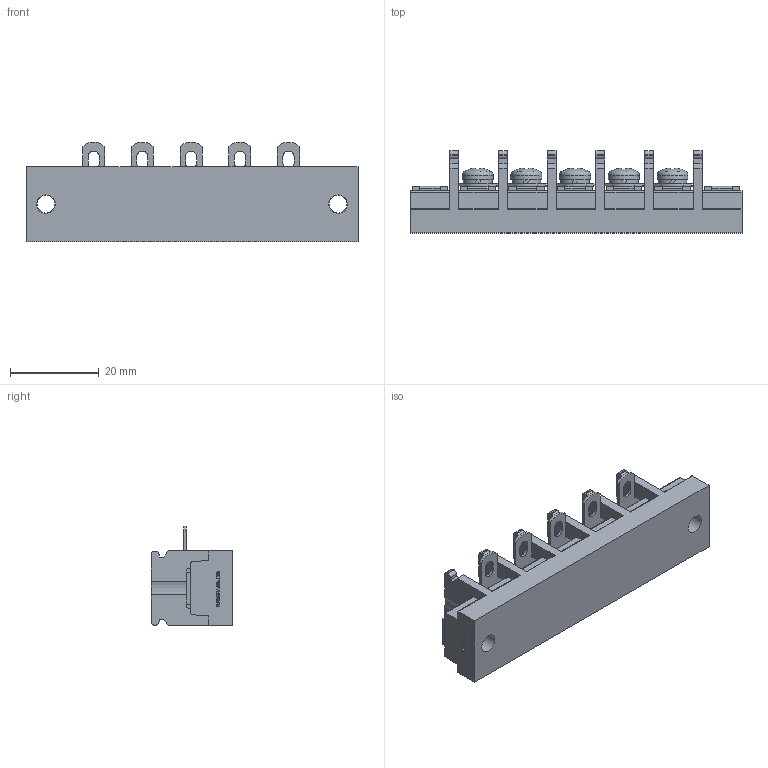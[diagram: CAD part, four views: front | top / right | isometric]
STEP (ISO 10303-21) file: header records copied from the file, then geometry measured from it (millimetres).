
FILE_DESCRIPTION(/* description */ ('Alibre Inc.'),/* implementation_level */ '2;1');
FILE_NAME(/* name */ 'export0',/* time_stamp */ '2015-10-19T19:30:36+09:00',/* author */ (''),/* organization */ (''),/* preprocessor_version */ 'ST-DEVELOPER v14',/* originating_system */ 'Alibre',/* authorisation */ '');
FILE_SCHEMA (('CONFIG_CONTROL_DESIGN'));
Length unit declared in the file: centimetre
Products named in the file (1): ID_1
Bounding box: 75 x 18.5 x 22.5 mm (x, y, z)
Volume: 13633.9 mm3; surface area: 8392.1 mm2
Topology: 1 solids, 1 shells, 1124 faces, 3116 edges, 2033 vertices
Faces by surface type: plane 868, cylinder 117, bspline 104, cone 20, torus 10, sphere 5
Full cylindrical faces by diameter (mm): 4 x7, 4.2 x7, 6.5 x5, 7 x5
Entity records: 33587 total; most frequent: CARTESIAN_POINT 7034, ORIENTED_EDGE 6140, DIRECTION 4127, EDGE_CURVE 3070, VECTOR 2270, LINE 2270, VERTEX_POINT 2016, AXIS2_PLACEMENT_3D 1300
